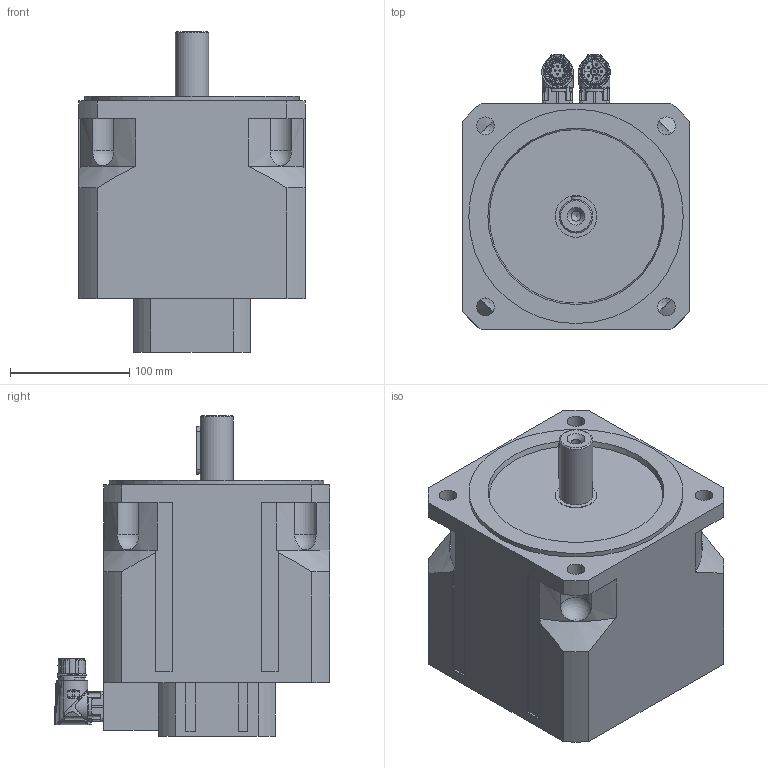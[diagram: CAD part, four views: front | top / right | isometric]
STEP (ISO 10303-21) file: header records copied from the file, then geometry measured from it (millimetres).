
FILE_DESCRIPTION((''),'2;1');
FILE_NAME('C:\PDF_output\N7028 02 P Z_4000_S4_S1.stp','2012-12-21T10:56:13',('oslejsek'),(''),'Autodesk Inventor 2013','Autodesk Inventor 2013','');
FILE_SCHEMA(('AUTOMOTIVE_DESIGN { 1 0 10303 214 1 1 1 1 }'));
Length unit declared in the file: millimetre
Products named in the file (8): N7028 02 P Z_4000_S4_S1; N7028 02 P_4000; BED_0201 Flansch 25x25  6-polig mit Stiften; 124953; 124888; AED_0201_12-polig, Stift; 127323
Assembly tree (7 placements, depth 3):
  N7028 02 P Z_4000_S4_S1
    N7028 02 P_4000
    BED_0201 Flansch 25x25  6-polig mit Stiften
      124953
      124888
    AED_0201_12-polig, Stift
      124888
      127323
Bounding box: 190 x 231.55 x 269 mm (x, y, z)
Volume: 6358848 mm3; surface area: 251925.9 mm2
Topology: 5 solids, 5 shells, 1074 faces, 2730 edges, 1712 vertices
Faces by surface type: cylinder 369, plane 303, bspline 258, cone 75, torus 45, sphere 24
Full cylindrical faces by diameter (mm): 1 x12, 1.18 x12, 1.2 x12, 2 x6, 2.15 x6, 2.7 x4, 3 x1, 3.1 x4, 3.2 x1, 4.5 x2, 5.5 x2, 5.9 x2, 8.376 x1, 15 x4, 15.2 x1, 17.4 x1, 17.955 x1, 19.8 x1, 20 x3, 20.1 x2, 20.8 x1, 21.15 x4, 21.6 x1, 21.8 x1, 21.9 x1, 24.4 x1, 28 x1, 35 x1, 180 x1
Entity records: 40679 total; most frequent: CARTESIAN_POINT 16160, ORIENTED_EDGE 5020, DIRECTION 4693, EDGE_CURVE 2510, AXIS2_PLACEMENT_3D 1898, VERTEX_POINT 1669, EDGE_LOOP 1321, FACE_OUTER_BOUND 1074
